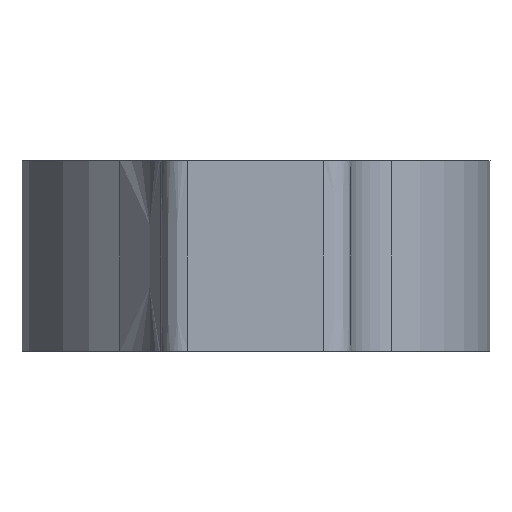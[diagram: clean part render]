
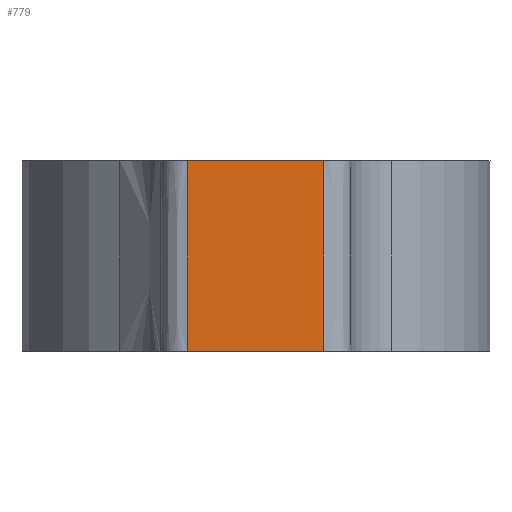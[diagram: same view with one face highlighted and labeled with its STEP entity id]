
A CAD part, front view. The second image highlights one B-rep face of the part: STEP entity #779.
In plain terms, the highlighted free-form (B-spline) face has degree [3, 3] with [4, 4] control points.
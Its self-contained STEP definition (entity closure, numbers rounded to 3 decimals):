
#30 = CARTESIAN_POINT ( 'NONE',  ( 48.436, -17.833, -51.535 ) ) ;
#31 = EDGE_CURVE ( 'NONE', #158, #196, #243, .T. ) ;
#51 = EDGE_CURVE ( 'NONE', #631, #371, #1182, .T. ) ;
#87 = CARTESIAN_POINT ( 'NONE',  ( 50.113, -17.833, -46.201 ) ) ;
#96 = CARTESIAN_POINT ( 'NONE',  ( 45.113, -17.833, -51.535 ) ) ;
#99 = ORIENTED_EDGE ( 'NONE', *, *, #487, .T. ) ;
#151 = CARTESIAN_POINT ( 'NONE',  ( 45.113, -17.833, -45.201 ) ) ;
#158 = VERTEX_POINT ( 'NONE', #687 ) ;
#190 = CARTESIAN_POINT ( 'NONE',  ( 50.113, -17.833, -51.535 ) ) ;
#196 = VERTEX_POINT ( 'NONE', #1532 ) ;
#200 = VECTOR ( 'NONE', #781, 1000. ) ;
#232 = CARTESIAN_POINT ( 'NONE',  ( 50.113, -17.833, -49.535 ) ) ;
#243 = B_SPLINE_CURVE_WITH_KNOTS ( 'NONE', 3,
 ( #190, #1319, #1572, #232, #610, #87, #1059 ),
 .UNSPECIFIED., .F., .F.,
 ( 4, 3, 4 ),
 ( 0., 0.002, 0.007 ),
 .UNSPECIFIED. ) ;
#248 = DIRECTION ( 'NONE',  ( 1., 0., 0. ) ) ;
#275 = CARTESIAN_POINT ( 'NONE',  ( 45.113, -17.833, -44.535 ) ) ;
#280 = CARTESIAN_POINT ( 'NONE',  ( 48.436, -17.833, -44.535 ) ) ;
#294 = CARTESIAN_POINT ( 'NONE',  ( 45.113, -17.833, -46.535 ) ) ;
#371 = VERTEX_POINT ( 'NONE', #983 ) ;
#406 = CARTESIAN_POINT ( 'NONE',  ( 47.613, -17.833, -44.535 ) ) ;
#414 = CARTESIAN_POINT ( 'NONE',  ( 50.113, -17.833, -49.201 ) ) ;
#420 = CARTESIAN_POINT ( 'NONE',  ( 45.083, -17.833, -46.868 ) ) ;
#430 = CARTESIAN_POINT ( 'NONE',  ( 50.113, -17.833, -44.535 ) ) ;
#487 = EDGE_CURVE ( 'NONE', #371, #158, #1415, .T. ) ;
#502 = CARTESIAN_POINT ( 'NONE',  ( 46.759, -17.833, -49.201 ) ) ;
#515 = FACE_OUTER_BOUND ( 'NONE', #1043, .T. ) ;
#525 = CARTESIAN_POINT ( 'NONE',  ( 45.113, -17.833, -48.201 ) ) ;
#584 = VECTOR ( 'NONE', #248, 1000. ) ;
#610 = CARTESIAN_POINT ( 'NONE',  ( 50.113, -17.833, -47.868 ) ) ;
#621 = ORIENTED_EDGE ( 'NONE', *, *, #923, .T. ) ;
#631 = VERTEX_POINT ( 'NONE', #275 ) ;
#647 = CARTESIAN_POINT ( 'NONE',  ( 45.113, -17.833, -49.868 ) ) ;
#680 = CARTESIAN_POINT ( 'NONE',  ( 48.436, -17.833, -46.868 ) ) ;
#687 = CARTESIAN_POINT ( 'NONE',  ( 50.113, -17.833, -51.535 ) ) ;
#733 = LINE ( 'NONE', #406, #200 ) ;
#764 = CARTESIAN_POINT ( 'NONE',  ( 48.436, -17.833, -49.201 ) ) ;
#779 = ADVANCED_FACE ( 'NONE', ( #515 ), #905, .F. ) ;
#781 = DIRECTION ( 'NONE',  ( -1., 0., 0. ) ) ;
#801 = CARTESIAN_POINT ( 'NONE',  ( 46.759, -17.833, -46.868 ) ) ;
#872 = ORIENTED_EDGE ( 'NONE', *, *, #51, .T. ) ;
#886 = CARTESIAN_POINT ( 'NONE',  ( 47.613, -17.833, -51.535 ) ) ;
#893 = ORIENTED_EDGE ( 'NONE', *, *, #31, .T. ) ;
#905 = B_SPLINE_SURFACE_WITH_KNOTS ( 'NONE', 3, 3, ( 
 ( #430, #280, #1559, #1061 ),
 ( #1545, #680, #801, #420 ),
 ( #414, #764, #502, #1262 ),
 ( #929, #30, #1544, #1420 ) ),
 .UNSPECIFIED., .F., .F., .F.,
 ( 4, 4 ),
 ( 4, 4 ),
 ( 0.318, 0.682 ),
 ( 0.378, 0.621 ),
 .UNSPECIFIED. ) ;
#923 = EDGE_CURVE ( 'NONE', #196, #631, #733, .T. ) ;
#929 = CARTESIAN_POINT ( 'NONE',  ( 50.113, -17.833, -51.535 ) ) ;
#936 = CARTESIAN_POINT ( 'NONE',  ( 45.113, -17.833, -45.868 ) ) ;
#983 = CARTESIAN_POINT ( 'NONE',  ( 45.113, -17.833, -51.535 ) ) ;
#1043 = EDGE_LOOP ( 'NONE', ( #621, #872, #99, #893 ) ) ;
#1059 = CARTESIAN_POINT ( 'NONE',  ( 50.113, -17.833, -44.535 ) ) ;
#1061 = CARTESIAN_POINT ( 'NONE',  ( 45.083, -17.833, -44.535 ) ) ;
#1182 = B_SPLINE_CURVE_WITH_KNOTS ( 'NONE', 3,
 ( #1522, #151, #936, #294, #525, #647, #96 ),
 .UNSPECIFIED., .F., .F.,
 ( 4, 3, 4 ),
 ( 0., 0.002, 0.007 ),
 .UNSPECIFIED. ) ;
#1262 = CARTESIAN_POINT ( 'NONE',  ( 45.083, -17.833, -49.201 ) ) ;
#1319 = CARTESIAN_POINT ( 'NONE',  ( 50.113, -17.833, -50.868 ) ) ;
#1415 = LINE ( 'NONE', #886, #584 ) ;
#1420 = CARTESIAN_POINT ( 'NONE',  ( 45.083, -17.833, -51.535 ) ) ;
#1522 = CARTESIAN_POINT ( 'NONE',  ( 45.113, -17.833, -44.535 ) ) ;
#1532 = CARTESIAN_POINT ( 'NONE',  ( 50.113, -17.833, -44.535 ) ) ;
#1544 = CARTESIAN_POINT ( 'NONE',  ( 46.759, -17.833, -51.535 ) ) ;
#1545 = CARTESIAN_POINT ( 'NONE',  ( 50.113, -17.833, -46.868 ) ) ;
#1559 = CARTESIAN_POINT ( 'NONE',  ( 46.759, -17.833, -44.535 ) ) ;
#1572 = CARTESIAN_POINT ( 'NONE',  ( 50.113, -17.833, -50.201 ) ) ;
